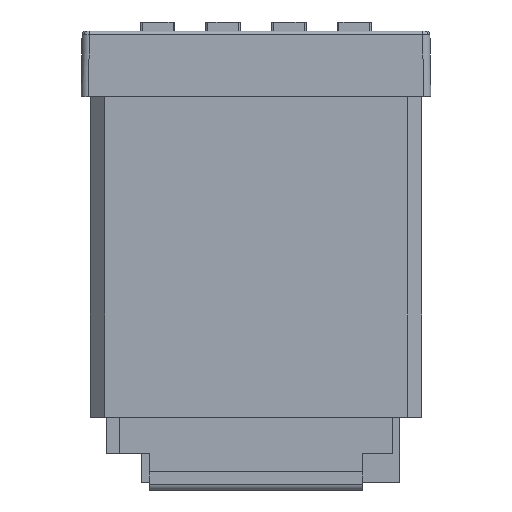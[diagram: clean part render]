
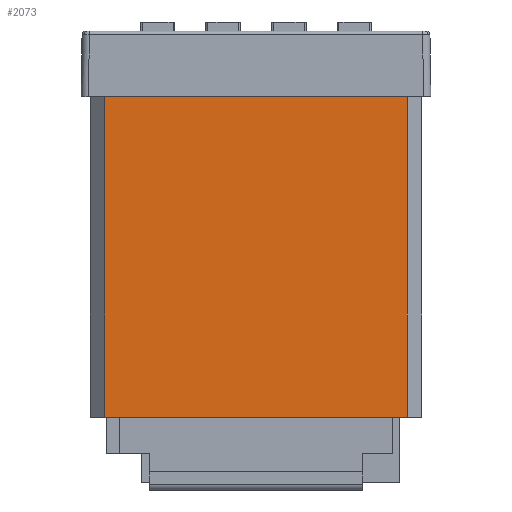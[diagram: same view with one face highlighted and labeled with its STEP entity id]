
A CAD part, front view. The second image highlights one B-rep face of the part: STEP entity #2073.
In plain terms, the highlighted planar face has unit normal (0, -1, 0).
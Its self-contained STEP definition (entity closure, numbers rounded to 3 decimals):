
#25 = LINE ( 'NONE', #2608, #1255 ) ;
#105 = EDGE_LOOP ( 'NONE', ( #1342, #1961, #1873, #1694 ) ) ;
#212 = LINE ( 'NONE', #1428, #2632 ) ;
#213 = DIRECTION ( 'NONE',  ( -1., 0., 0. ) ) ;
#333 = CARTESIAN_POINT ( 'NONE',  ( 41.5, -45.5, 0. ) ) ;
#479 = LINE ( 'NONE', #2133, #2972 ) ;
#653 = VERTEX_POINT ( 'NONE', #1946 ) ;
#931 = EDGE_CURVE ( 'NONE', #653, #2716, #25, .T. ) ;
#1150 = DIRECTION ( 'NONE',  ( 0., 0., 1. ) ) ;
#1255 = VECTOR ( 'NONE', #1401, 1000. ) ;
#1316 = EDGE_CURVE ( 'NONE', #653, #2413, #1443, .T. ) ;
#1342 = ORIENTED_EDGE ( 'NONE', *, *, #2114, .T. ) ;
#1401 = DIRECTION ( 'NONE',  ( -1., 0., 0. ) ) ;
#1405 = DIRECTION ( 'NONE',  ( -1., 0., 0. ) ) ;
#1426 = EDGE_CURVE ( 'NONE', #2716, #2209, #479, .T. ) ;
#1428 = CARTESIAN_POINT ( 'NONE',  ( 41.5, -45.5, 0. ) ) ;
#1443 = LINE ( 'NONE', #2575, #2703 ) ;
#1694 = ORIENTED_EDGE ( 'NONE', *, *, #1316, .T. ) ;
#1873 = ORIENTED_EDGE ( 'NONE', *, *, #931, .F. ) ;
#1894 = DIRECTION ( 'NONE',  ( 0., 0., 1. ) ) ;
#1946 = CARTESIAN_POINT ( 'NONE',  ( 41.5, -45.5, -88. ) ) ;
#1961 = ORIENTED_EDGE ( 'NONE', *, *, #1426, .F. ) ;
#2073 = ADVANCED_FACE ( 'NONE', ( #2281 ), #2357, .F. ) ;
#2114 = EDGE_CURVE ( 'NONE', #2413, #2209, #212, .T. ) ;
#2133 = CARTESIAN_POINT ( 'NONE',  ( -41.5, -45.5, -88. ) ) ;
#2209 = VERTEX_POINT ( 'NONE', #2415 ) ;
#2281 = FACE_OUTER_BOUND ( 'NONE', #105, .T. ) ;
#2357 = PLANE ( 'NONE',  #3139 ) ;
#2413 = VERTEX_POINT ( 'NONE', #333 ) ;
#2415 = CARTESIAN_POINT ( 'NONE',  ( -41.5, -45.5, 0. ) ) ;
#2575 = CARTESIAN_POINT ( 'NONE',  ( 41.5, -45.5, -88. ) ) ;
#2604 = CARTESIAN_POINT ( 'NONE',  ( 41.5, -45.5, -88. ) ) ;
#2608 = CARTESIAN_POINT ( 'NONE',  ( 41.5, -45.5, -88. ) ) ;
#2632 = VECTOR ( 'NONE', #213, 1000. ) ;
#2703 = VECTOR ( 'NONE', #1150, 1000. ) ;
#2716 = VERTEX_POINT ( 'NONE', #2890 ) ;
#2848 = DIRECTION ( 'NONE',  ( 0., 1., 0. ) ) ;
#2890 = CARTESIAN_POINT ( 'NONE',  ( -41.5, -45.5, -88. ) ) ;
#2972 = VECTOR ( 'NONE', #1894, 1000. ) ;
#3139 = AXIS2_PLACEMENT_3D ( 'NONE', #2604, #2848, #1405 ) ;
